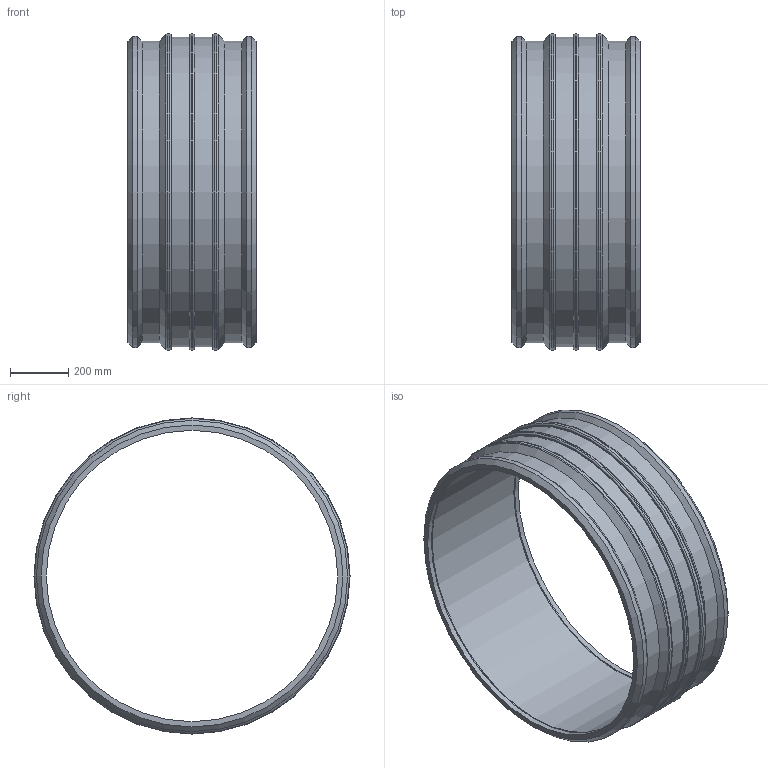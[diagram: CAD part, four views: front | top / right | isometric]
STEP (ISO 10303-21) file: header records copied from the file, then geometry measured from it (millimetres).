
FILE_DESCRIPTION(/* description */ ('PLASSON SUPER LIGHTFIT 1000 MM'),/* implementation_level */ '2;1');
FILE_NAME(/* name */ 'C:\Dropbox\KIMPROJECTS-Inventor\99-16-3568-Processing\temp 27.06.19\4601S3\4601S31000.ipt.stp',/* time_stamp */ '2019-06-27T09:40:50+03:00',/* author */ ('KIM'),/* organization */ (''),/* preprocessor_version */ 'ST-DEVELOPER v15.6',/* originating_system */ 'Autodesk Inventor 2015',/* authorisation */ '');
FILE_SCHEMA (('AUTOMOTIVE_DESIGN { 1 0 10303 214 3 1 1 }'));
Length unit declared in the file: millimetre
Products named in the file (1): 4601S31000
Bounding box: 440 x 1085 x 1085 mm (x, y, z)
Volume: 40474986.3 mm3; surface area: 3233163.4 mm2
Topology: 1 solids, 1 shells, 48 faces, 86 edges, 50 vertices
Faces by surface type: cylinder 20, plane 14, cone 8, torus 6
Full cylindrical faces by diameter (mm): 4 x2, 10 x2, 1000 x3, 1035.96 x2, 1063.3 x2, 1068 x2, 1085 x3
Entity records: 1054 total; most frequent: CARTESIAN_POINT 215, DIRECTION 190, ORIENTED_EDGE 100, AXIS2_PLACEMENT_3D 95, EDGE_LOOP 92, EDGE_CURVE 50, FACE_OUTER_BOUND 48, ADVANCED_FACE 48
